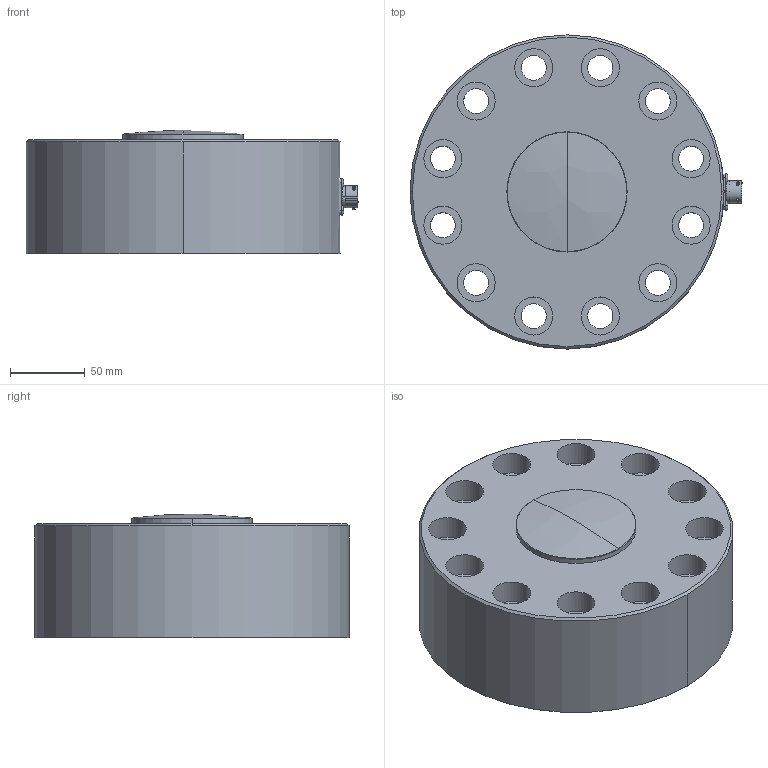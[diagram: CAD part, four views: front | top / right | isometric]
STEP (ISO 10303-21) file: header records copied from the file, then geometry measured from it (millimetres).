
FILE_DESCRIPTION (( 'STEP AP203' ), '1' );
FILE_NAME ('Interface 1241-900KN.STEP', '2011-06-07T14:46:27', ( ' ' ), ( '' ), 'SwSTEP 2.0', 'SolidWorks 2002349', '' );
FILE_SCHEMA (( 'CONFIG_CONTROL_DESIGN' ));
Length unit declared in the file: inch
Products named in the file (1): Interface 1241-900KN
Bounding box: 221.49 x 209.5 x 82.52 mm (x, y, z)
Volume: 2383460.2 mm3; surface area: 169619 mm2
Topology: 1 solids, 1 shells, 247 faces, 582 edges, 380 vertices
Faces by surface type: cylinder 117, plane 89, bspline 27, cone 14
Entity records: 8101 total; most frequent: CARTESIAN_POINT 2400, DIRECTION 1170, ORIENTED_EDGE 1164, EDGE_CURVE 582, AXIS2_PLACEMENT_3D 474, VERTEX_POINT 380, EDGE_LOOP 314, CIRCLE 253
